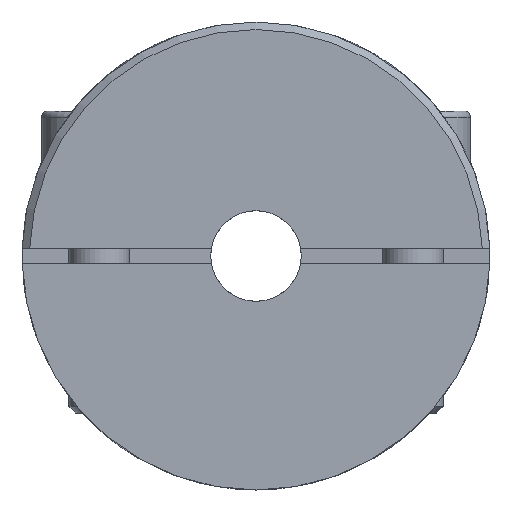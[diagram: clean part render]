
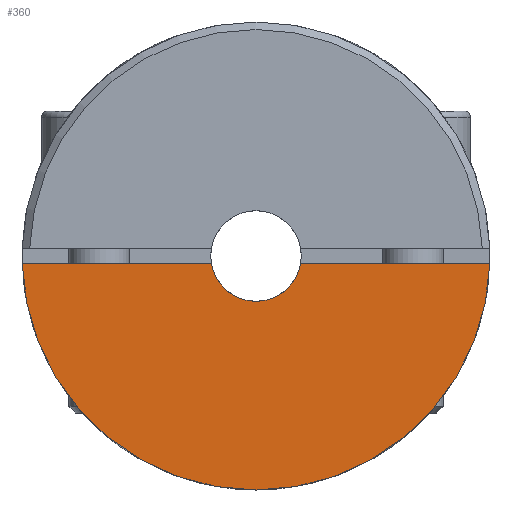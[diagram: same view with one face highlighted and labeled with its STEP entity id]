
A CAD part, left-side view. The second image highlights one B-rep face of the part: STEP entity #360.
In plain terms, the highlighted planar face has unit normal (-1, 0, 0) as drawn and (1, 0, 0) by its records, which use the part's own axes.
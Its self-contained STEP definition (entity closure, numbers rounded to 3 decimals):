
#360 = ADVANCED_FACE( '', ( #776 ), #777, .T. );
#776 = FACE_OUTER_BOUND( '', #1356, .T. );
#777 = PLANE( '', #1357 );
#1356 = EDGE_LOOP( '', ( #2005, #2006, #2007, #2008 ) );
#1357 = AXIS2_PLACEMENT_3D( '', #2009, #2010, #2011 );
#2005 = ORIENTED_EDGE( '', *, *, #2831, .F. );
#2006 = ORIENTED_EDGE( '', *, *, #2832, .T. );
#2007 = ORIENTED_EDGE( '', *, *, #2833, .T. );
#2008 = ORIENTED_EDGE( '', *, *, #2834, .T. );
#2009 = CARTESIAN_POINT( '', ( 7.3, 0., 7.75 ) );
#2010 = DIRECTION( '', ( 1., 0., 0. ) );
#2011 = DIRECTION( '', ( 0., 0., -1. ) );
#2831 = EDGE_CURVE( '', #3234, #3235, #3236, .T. );
#2832 = EDGE_CURVE( '', #3234, #3237, #3238, .T. );
#2833 = EDGE_CURVE( '', #3237, #3239, #3240, .T. );
#2834 = EDGE_CURVE( '', #3239, #3235, #3241, .T. );
#3234 = VERTEX_POINT( '', #3751 );
#3235 = VERTEX_POINT( '', #3752 );
#3236 = CIRCLE( '', #3753, 7.75 );
#3237 = VERTEX_POINT( '', #3754 );
#3238 = LINE( '', #3755, #3756 );
#3239 = VERTEX_POINT( '', #3757 );
#3240 = CIRCLE( '', #3758, 1.5 );
#3241 = LINE( '', #3759, #3760 );
#3751 = CARTESIAN_POINT( '', ( 7.3, 7.746, -0.25 ) );
#3752 = CARTESIAN_POINT( '', ( 7.3, -7.746, -0.25 ) );
#3753 = AXIS2_PLACEMENT_3D( '', #4419, #4420, #4421 );
#3754 = CARTESIAN_POINT( '', ( 7.3, 1.479, -0.25 ) );
#3755 = CARTESIAN_POINT( '', ( 7.3, 0., -0.25 ) );
#3756 = VECTOR( '', #4422, 1000. );
#3757 = CARTESIAN_POINT( '', ( 7.3, -1.479, -0.25 ) );
#3758 = AXIS2_PLACEMENT_3D( '', #4423, #4424, #4425 );
#3759 = CARTESIAN_POINT( '', ( 7.3, 0., -0.25 ) );
#3760 = VECTOR( '', #4426, 1000. );
#4419 = CARTESIAN_POINT( '', ( 7.3, 0., 0. ) );
#4420 = DIRECTION( '', ( -1., 0., 0. ) );
#4421 = DIRECTION( '', ( 0., 0., 1. ) );
#4422 = DIRECTION( '', ( 0., -1., 0. ) );
#4423 = CARTESIAN_POINT( '', ( 7.3, 0., 0. ) );
#4424 = DIRECTION( '', ( -1., 0., 0. ) );
#4425 = DIRECTION( '', ( 0., 0., 1. ) );
#4426 = DIRECTION( '', ( 0., -1., 0. ) );
